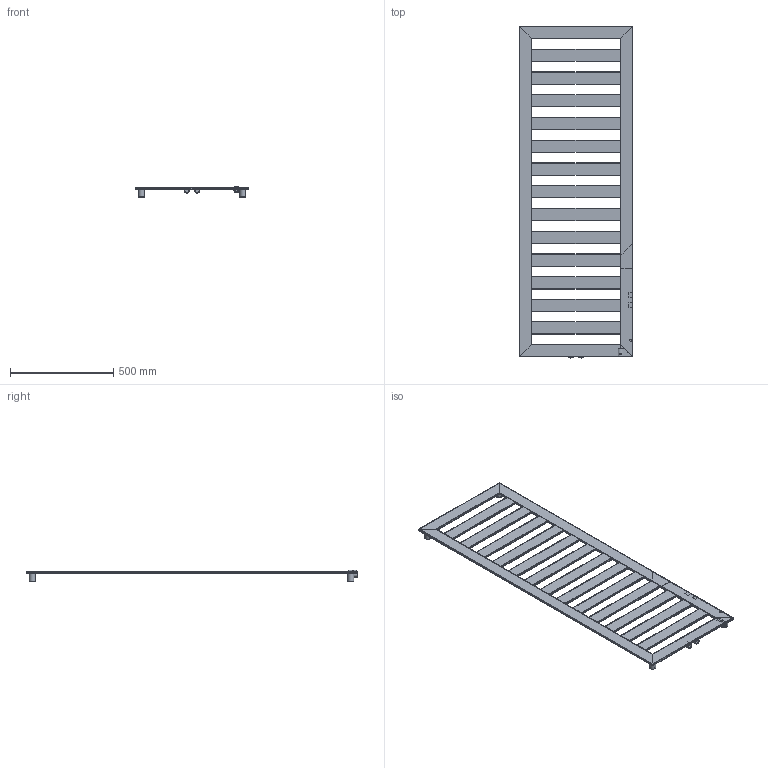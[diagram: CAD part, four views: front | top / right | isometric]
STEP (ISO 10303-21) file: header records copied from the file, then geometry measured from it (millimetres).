
FILE_DESCRIPTION( ( 'Unknown' ), '1' );
FILE_NAME( 'D:/Alplast sp. j/Witryna zespoBu - Projekty/Archiwum/Grzejniki Archiwum/Projekty/DESIGN PROGRAM/ESCALERA/ESCALERA 3.stp', 'Unknown', ( 'Unknown' ), ( 'Unknown' ), 'PSStep 10.1', 'Unknown', ' ' );
FILE_SCHEMA( ( 'AUTOMOTIVE_DESIGN { 1 0 10303 214 1 1 1 1 }' ) );
Length unit declared in the file: millimetre
Products named in the file (25): Assem1; kana³ pionowy  60x10   L1600; kana³ pionowy  60x10   L1600-oa0; kana³ poziomy    dolny  60x10   L550; mufa prz³aczeniowa; mufa prz³aczeniowa-oa1; kana³ poziomu  60x10   L430; kana³ poziomu  60x10   L430-oa2; kana³ poziomu  60x10   L430-oa3; kana³ poziomu  60x10   L430-oa4; kana³ poziomu  60x10   L430-oa5; kana³ poziomu  60x10   L430-oa6; kana³ poziomu  60x10   L430-oa7; kana³ poziomu  60x10   L430-oa8; kana³ poziomu  60x10   L430-oa9; kana³ poziomu  60x10   L430-oa10; kana³ poziomu  60x10   L430-oa11; kana³ poziomu  60x10   L430-oa12; kana³ poziomu  60x10   L430-oa13; kana³ poziomy    górny  60x10   L550; sworzen wieszaka; tuleja wieszaka; tuleja wieszaka-oa14; tuleja wieszaka-oa15; tuleja wieszaka-oa16
Bounding box: 550 x 1605 x 55 mm (x, y, z)
Volume: 4056903.7 mm3; surface area: 5195742.3 mm2
Topology: 51 solids, 51 shells, 1075 faces, 2887 edges, 1850 vertices
Faces by surface type: plane 694, cylinder 351, cone 22, bspline 8
Full cylindrical faces by diameter (mm): 4.917 x8, 10 x2, 18.974 x4, 20 x5, 22 x8, 25 x4, 30 x8
Entity records: 21956 total; most frequent: CARTESIAN_POINT 3716, DIRECTION 2816, ORIENTED_EDGE 2792, EDGE_CURVE 1396, LINE 1028, VECTOR 1028, VERTEX_POINT 910, AXIS2_PLACEMENT_3D 894
